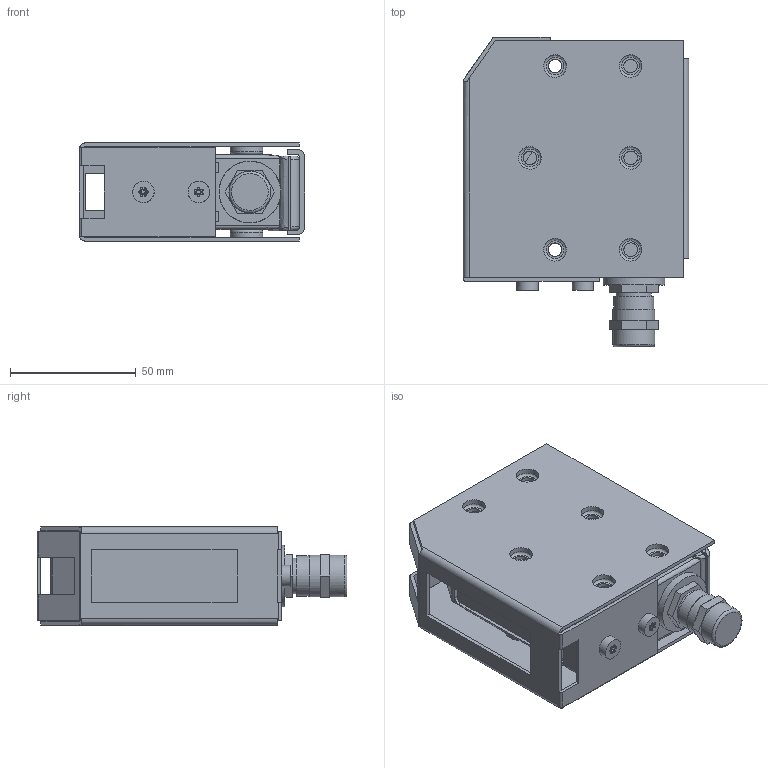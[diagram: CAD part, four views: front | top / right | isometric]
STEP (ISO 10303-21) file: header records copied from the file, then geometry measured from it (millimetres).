
FILE_DESCRIPTION((''),'2;1');
FILE_NAME('E:\ideas_PC1350\jschwi\BR96_Ex_3D.stp', '2009-04-07T14:27:56',('User'),('SDRC'),'I-DEAS Master Series','UNIX','Yes');
FILE_SCHEMA(('CONFIG_CONTROL_DESIGN', 'GEOMETRIC_VALIDATION_PROPERTIES_MIM','SHAPE_APPEARANCE_LAYER_MIM'));
Length unit declared in the file: millimetre
Bounding box: 89.6 x 123.1 x 39 mm (x, y, z)
Volume: 226535.6 mm3; surface area: 75899.5 mm2
Topology: 1 solids, 3 shells, 445 faces, 1185 edges, 792 vertices
Faces by surface type: bspline 445
Entity records: 15967 total; most frequent: CARTESIAN_POINT 8146, ORIENTED_EDGE 2290, EDGE_CURVE 1145, OVER_RIDING_STYLED_ITEM 943, VERTEX_POINT 729, B_SPLINE_CURVE_WITH_KNOTS 560, EDGE_LOOP 514, FACE_OUTER_BOUND 445
